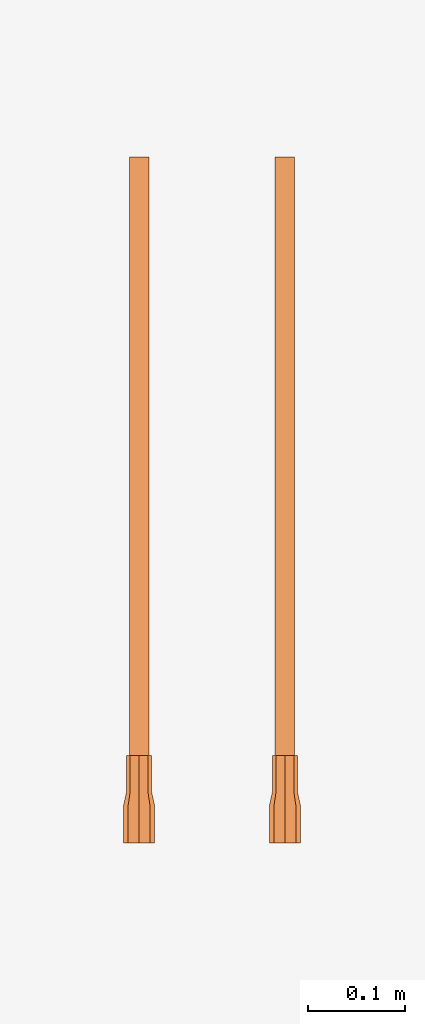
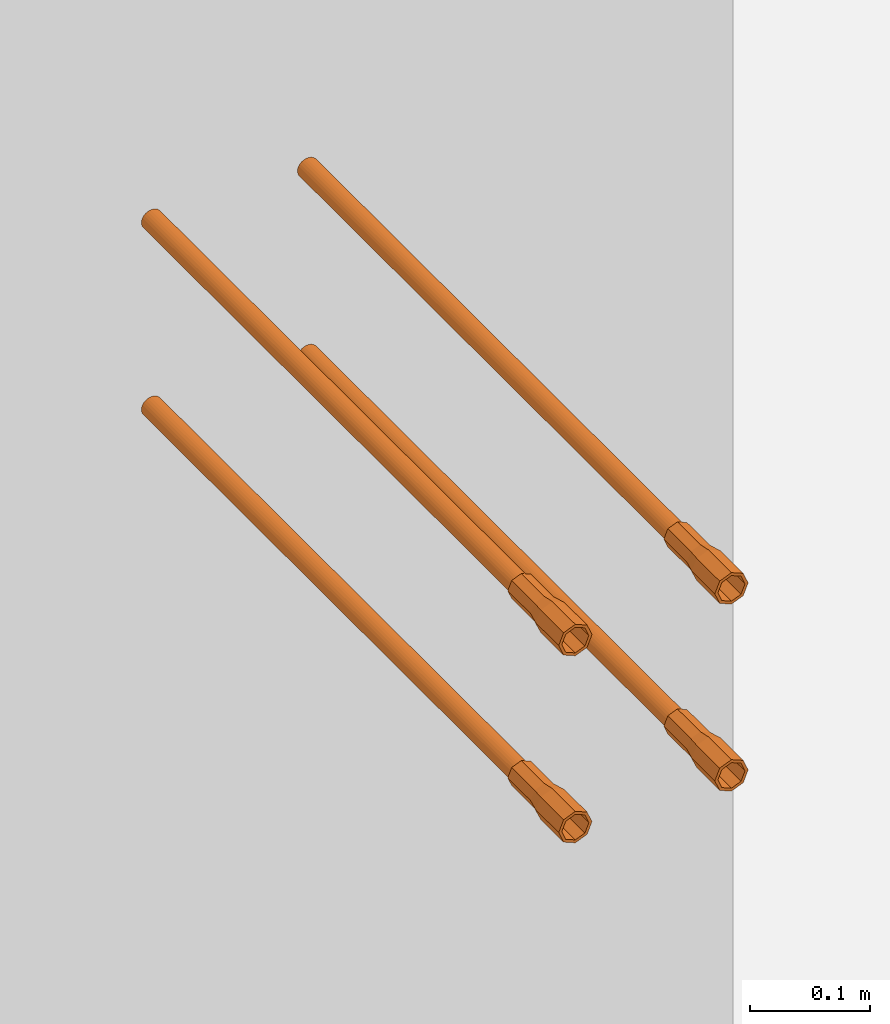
# One storey, part 25 of 26: 4 proxies.
"""IFC2X3 building model written with IfcOpenShell, lengths in millimetres."""

from ifc_helpers import new_model, entity, si_unit, converted_unit, derived_unit, direction, frame, frame_2d, origin, place, context, subcontext, project, spatial, circle, extrude, faceted_brep, source, transform, mapped, type_object, type_shapes, element, save


model = new_model("IFC2X3")

# Units and contexts
model_context = context("Model", 3, precision=0.01, world=origin(), true_north=direction((6.12303176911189e-17, 1.0)))
body_context = subcontext(model_context, "Body", "Model", "MODEL_VIEW")
ifc_project = project(units=[si_unit("LENGTHUNIT", "METRE", prefix="MILLI"), si_unit("AREAUNIT", "SQUARE_METRE"), si_unit("VOLUMEUNIT", "CUBIC_METRE"), converted_unit("PLANEANGLEUNIT", "DEGREE", entity("IfcRatioMeasure", 0.0174532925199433), si_unit("PLANEANGLEUNIT", "RADIAN"), dimensions=[0, 0, 0, 0, 0, 0, 0]), si_unit("MASSUNIT", "GRAM", prefix="KILO"), derived_unit("MASSDENSITYUNIT", [(si_unit("MASSUNIT", "GRAM", prefix="KILO"), 1), (si_unit("LENGTHUNIT", "METRE"), -3)]), si_unit("TIMEUNIT", "SECOND"), si_unit("FREQUENCYUNIT", "HERTZ"), si_unit("THERMODYNAMICTEMPERATUREUNIT", "DEGREE_CELSIUS"), derived_unit("THERMALTRANSMITTANCEUNIT", [(si_unit("MASSUNIT", "GRAM", prefix="KILO"), 1), (si_unit("THERMODYNAMICTEMPERATUREUNIT", "KELVIN"), -1), (si_unit("TIMEUNIT", "SECOND"), -3)]), derived_unit("VOLUMETRICFLOWRATEUNIT", [(si_unit("LENGTHUNIT", "METRE"), 3), (si_unit("TIMEUNIT", "SECOND"), -1)]), si_unit("ELECTRICCURRENTUNIT", "AMPERE"), si_unit("ELECTRICVOLTAGEUNIT", "VOLT"), si_unit("POWERUNIT", "WATT"), si_unit("FORCEUNIT", "NEWTON", prefix="KILO"), si_unit("ILLUMINANCEUNIT", "LUX"), si_unit("LUMINOUSFLUXUNIT", "LUMEN"), si_unit("LUMINOUSINTENSITYUNIT", "CANDELA"), derived_unit("USERDEFINED", [(si_unit("MASSUNIT", "GRAM", prefix="KILO"), -1), (si_unit("LENGTHUNIT", "METRE"), -2), (si_unit("TIMEUNIT", "SECOND"), 3), (si_unit("LUMINOUSFLUXUNIT", "LUMEN"), 1)]), derived_unit("LINEARVELOCITYUNIT", [(si_unit("LENGTHUNIT", "METRE"), 1), (si_unit("TIMEUNIT", "SECOND"), -1)]), si_unit("PRESSUREUNIT", "PASCAL"), derived_unit("USERDEFINED", [(si_unit("LENGTHUNIT", "METRE"), -2), (si_unit("MASSUNIT", "GRAM", prefix="KILO"), 1), (si_unit("TIMEUNIT", "SECOND"), -2)])], contexts=[model_context])

# Site, building, storey
site_placement = place(None, origin())
site = spatial("IfcSite", under=ifc_project, at=site_placement, Name="Default", CompositionType="ELEMENT")
building_placement = place(site_placement, origin())
building = spatial("IfcBuilding", under=site, at=building_placement, Name="niet gebruiken", CompositionType="ELEMENT")
storey_placement = place(building_placement, origin())
storey = spatial("IfcBuildingStorey", under=building, at=storey_placement, Name="00 begane grond", CompositionType="ELEMENT", Elevation=0.0)

# Proxies
building_element_proxy_type_1 = type_object("IfcBuildingElementProxyType", Name="Ø20/M24x705", PredefinedType="NOTDEFINED")
shared_shape_1 = source(origin(), body_context, "Body", "SolidModel", [
    extrude(circle(Radius=10.0, at=frame_2d((0.0, -1.61554457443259e-14), x_axis=(1.0, 0.0))), frame((34.9769027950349, 0.0, -705.0)), (0.0, 0.0, 1.0), 615.0),
    extrude(circle(Radius=10.0, at=frame_2d((0.0, -1.61554457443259e-14), x_axis=(1.0, 0.0))), frame((34.9769027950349, 0.0, -705.0)), (0.0, 0.0, 1.0), 615.0),
    faceted_brep([(29.3200485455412, 13.6568542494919, 0.0), (32.1484756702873, 14.8284271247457, 0.0), (34.9769027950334, 16.0, 0.0), (34.9769027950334, 16.0, -38.0), (32.1484756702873, 14.8284271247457, -38.0), (29.3200485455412, 13.6568542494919, -38.0), (26.4916214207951, 12.4852813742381, -38.0), (23.663194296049, 11.3137084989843, -38.0), (23.663194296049, 11.3137084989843, 0.0), (26.4916214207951, 12.4852813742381, 0.0), (49.805329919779, 2.82842712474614, 0.0), (50.9769027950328, 0.0, 0.0), (50.9769027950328, 0.0, -38.0), (50.0199937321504, 2.31018283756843, -38.0), (49.7680552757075, 2.91841607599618, -38.0), (48.6337570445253, 5.65685424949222, -38.0), (48.5592077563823, 5.83683215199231, -38.0), (47.4621841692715, 8.48528137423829, -38.0), (46.2906112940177, 11.3137084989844, -38.0), (46.2906112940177, 11.3137084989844, 0.0), (47.4621841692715, 8.48528137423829, 0.0), (48.6337570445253, 5.65685424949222, 0.0), (21.3200485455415, 5.65685424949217, 0.0), (22.4916214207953, 8.48528137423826, 0.0), (22.4916214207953, 8.48528137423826, -38.0), (22.2769576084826, 7.96703708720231, -38.0), (21.3200485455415, 5.65685424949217, -38.0), (20.8907209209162, 4.62036567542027, -38.0), (20.1484756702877, 2.82842712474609, -38.0), (18.976902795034, 0.0, -38.0), (18.976902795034, 0.0, 0.0), (20.1484756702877, 2.82842712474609, 0.0), (40.6337570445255, 13.6568542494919, 0.0), (43.4621841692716, 12.4852813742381, 0.0), (43.4621841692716, 12.4852813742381, -38.0), (40.6337570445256, 13.6568542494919, -38.0), (37.8053299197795, 14.8284271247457, -38.0), (37.8053299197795, 14.8284271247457, 0.0), (49.063084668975, -4.62036567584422, 0.0), (47.6768479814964, -7.96703708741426, 0.0), (46.2906112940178, -11.3137084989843, 0.0), (46.2906112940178, -11.3137084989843, -38.0), (47.4621841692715, -8.48528137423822, -38.0), (48.6337570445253, -5.65685424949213, -38.0), (49.8053299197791, -2.82842712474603, -38.0), (29.3200485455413, -13.6568542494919, 0.0), (26.4916214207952, -12.4852813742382, 0.0), (23.6631942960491, -11.3137084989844, 0.0), (23.6631942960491, -11.3137084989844, -38.0), (26.4916214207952, -12.4852813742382, -38.0), (29.3200485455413, -13.6568542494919, -38.0), (32.1484756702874, -14.8284271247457, -38.0), (34.9769027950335, -16.0, -38.0), (34.9769027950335, -16.0, 0.0), (32.1484756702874, -14.8284271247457, 0.0), (37.8053299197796, -14.8284271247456, -38.0), (40.6337570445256, -13.6568542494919, -38.0), (43.4621841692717, -12.4852813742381, -38.0), (43.4621841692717, -12.4852813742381, 0.0), (40.6337570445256, -13.6568542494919, 0.0), (37.8053299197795, -14.8284271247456, 0.0), (22.4916214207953, -8.48528137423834, 0.0), (21.3200485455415, -5.65685424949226, 0.0), (20.1484756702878, -2.82842712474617, 0.0), (19.9338118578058, -2.31018283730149, -38.0), (20.1857498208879, -2.91841488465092, -38.0), (21.3200485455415, -5.65685424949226, -38.0), (22.4916214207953, -8.48528137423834, -38.0), (25.7845146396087, 9.19238815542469, -52.0), (24.8628969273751, 6.96740617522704, -52.0), (23.9412792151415, 4.7424241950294, -52.0), (22.9590910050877, 2.3712120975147, -52.0), (21.976902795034, 0.0, -52.0), (44.1692909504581, 9.19238815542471, -52.0), (47.9769027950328, 0.0, -52.0), (46.994714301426, 2.37121278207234, -52.0), (46.0730968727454, 4.59619407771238, -52.0), (45.1211939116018, 6.89429111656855, -52.0), (34.9769027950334, 13.0, -52.0), (32.6788057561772, 12.0480970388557, -52.0), (30.380708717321, 11.096194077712, -52.0), (28.0826116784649, 10.1442911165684, -52.0), (37.2749998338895, 12.0480970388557, -52.0), (41.8711939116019, 10.1442911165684, -52.0), (39.5730968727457, 11.0961940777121, -52.0), (44.1692909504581, -9.19238815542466, -52.0), (45.0909086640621, -6.96740617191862, -52.0), (45.3722781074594, -6.28812024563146, -52.0), (46.0125263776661, -4.74242418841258, -52.0), (46.5752652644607, -3.38385233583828, -52.0), (46.9947145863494, -2.37121209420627, -52.0), (28.0826116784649, -10.1442911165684, -52.0), (30.3807087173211, -11.0961940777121, -52.0), (32.6788057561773, -12.0480970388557, -52.0), (34.9769027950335, -13.0, -52.0), (25.7845146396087, -9.19238815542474, -52.0), (37.2749998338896, -12.0480970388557, -52.0), (39.5730968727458, -11.096194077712, -52.0), (41.871193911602, -10.1442911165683, -52.0), (22.9288057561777, -2.29809703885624, -52.0), (23.8807087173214, -4.59619407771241, -52.0), (24.8326116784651, -6.89429111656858, -52.0), (32.6788057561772, 12.0480970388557, -90.0), (30.380708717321, 11.096194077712, -90.0), (28.0826116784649, 10.1442911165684, -90.0), (25.7845146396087, 9.19238815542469, -90.0), (34.9769027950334, 13.0, -90.0), (47.9769027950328, 0.0, -90.0), (47.2760840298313, 1.691926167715, -90.0), (46.0730968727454, 4.59619407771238, -90.0), (45.1211939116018, 6.89429111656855, -90.0), (44.1692909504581, 9.19238815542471, -90.0), (23.3785403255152, 3.38385233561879, -90.0), (21.976902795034, 0.0, -90.0), (24.5815274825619, 6.28812024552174, -90.0), (41.8711939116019, 10.1442911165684, -90.0), (39.5730968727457, 11.0961940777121, -90.0), (37.2749998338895, 12.0480970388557, -90.0), (46.0730968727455, -4.5961940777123, -90.0), (47.0249998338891, -2.29809703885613, -90.0), (44.1692909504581, -9.19238815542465, -90.0), (45.1211939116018, -6.89429111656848, -90.0), (25.7845146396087, -9.19238815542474, -90.0), (28.0826116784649, -10.1442911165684, -90.0), (30.3807087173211, -11.0961940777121, -90.0), (32.6788057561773, -12.0480970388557, -90.0), (34.9769027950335, -13.0, -90.0), (37.2749998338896, -12.0480970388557, -90.0), (39.5730968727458, -11.096194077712, -90.0), (41.871193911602, -10.1442911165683, -90.0), (22.6777215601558, -1.6919261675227, -90.0), (23.8807087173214, -4.59619407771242, -90.0), (24.8326116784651, -6.89429111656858, -90.0), (34.9769027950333, 0.0, -90.0), (34.9769027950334, 0.0, -38.0), (47.9769027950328, 0.0, -38.0), (47.2760840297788, 1.69192616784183, -38.0), (46.0730968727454, 4.59619407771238, -38.0), (45.1211939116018, 6.89429111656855, -38.0), (44.1692909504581, 9.19238815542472, -38.0), (41.8711939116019, 10.1442911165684, -38.0), (39.5730968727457, 11.0961940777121, -38.0), (37.2749998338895, 12.0480970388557, -38.0), (34.9769027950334, 13.0, -38.0), (32.6788057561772, 12.0480970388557, -38.0), (30.380708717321, 11.096194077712, -38.0), (28.0826116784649, 10.1442911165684, -38.0), (25.7845146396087, 9.19238815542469, -38.0), (24.5815274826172, 6.28812024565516, -38.0), (23.3785403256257, 3.38385233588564, -38.0), (21.976902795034, 0.0, -38.0), (22.6777215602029, -1.69192616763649, -38.0), (47.0249998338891, -2.29809703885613, -38.0), (46.0730968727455, -4.59619407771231, -38.0), (45.1211939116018, -6.89429111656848, -38.0), (44.1692909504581, -9.19238815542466, -38.0), (41.871193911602, -10.1442911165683, -38.0), (39.5730968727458, -11.096194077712, -38.0), (37.2749998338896, -12.0480970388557, -38.0), (34.9769027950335, -13.0, -38.0), (23.8807087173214, -4.59619407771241, -38.0), (24.8326116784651, -6.89429111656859, -38.0), (25.7845146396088, -9.19238815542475, -38.0), (28.0826116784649, -10.1442911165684, -38.0), (30.3807087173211, -11.0961940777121, -38.0), (32.6788057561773, -12.0480970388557, -38.0), (32.6788057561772, 12.0480970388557, 0.0), (30.380708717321, 11.096194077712, 0.0), (28.0826116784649, 10.1442911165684, 0.0), (25.7845146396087, 9.19238815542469, 0.0), (34.9769027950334, 13.0, 0.0), (47.9769027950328, 0.0, 0.0), (47.0249998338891, 2.29809703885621, 0.0), (46.0730968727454, 4.59619407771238, 0.0), (45.1211939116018, 6.89429111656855, 0.0), (44.1692909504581, 9.19238815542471, 0.0), (24.832611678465, 6.89429111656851, 0.0), (23.8807087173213, 4.59619407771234, 0.0), (22.9288057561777, 2.29809703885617, 0.0), (21.976902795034, 0.0, 0.0), (37.2749998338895, 12.0480970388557, 0.0), (41.8711939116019, 10.1442911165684, 0.0), (39.5730968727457, 11.0961940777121, 0.0), (44.1692909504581, -9.19238815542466, 0.0), (45.3722781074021, -6.28812024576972, 0.0), (46.5752652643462, -3.38385233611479, 0.0), (32.6788057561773, -12.0480970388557, 0.0), (34.9769027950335, -13.0, 0.0), (25.7845146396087, -9.19238815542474, 0.0), (28.0826116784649, -10.1442911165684, 0.0), (30.3807087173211, -11.0961940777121, 0.0), (37.2749998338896, -12.0480970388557, 0.0), (39.5730968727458, -11.096194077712, 0.0), (41.871193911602, -10.1442911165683, 0.0), (22.9288057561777, -2.29809703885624, 0.0), (23.8807087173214, -4.59619407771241, 0.0), (24.8326116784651, -6.89429111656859, 0.0)], [[[0, 1, 2, 3, 4, 5, 6, 7, 8, 9]], [[10, 11, 12, 13, 14, 15, 16, 17, 18, 19, 20, 21]], [[22, 23, 8, 7, 24, 25, 26, 27, 28, 29, 30, 31]], [[32, 33, 19, 18, 34, 35, 36, 3, 2, 37]], [[38, 39, 40, 41, 42, 43, 44, 12, 11]], [[45, 46, 47, 48, 49, 50, 51, 52, 53, 54]], [[53, 52, 55, 56, 57, 41, 40, 58, 59, 60]], [[48, 47, 61, 62, 63, 30, 29, 64, 65, 66, 67]], [[7, 68, 69, 70, 71, 72, 29, 28, 27, 26, 25, 24]], [[73, 18, 17, 16, 15, 14, 13, 12, 74, 75, 76, 77]], [[4, 3, 78, 79, 80, 81, 68, 7, 6, 5]], [[82, 78, 3, 36, 35, 34, 18, 73, 83, 84]], [[41, 85, 86, 87, 88, 89, 90, 74, 12, 44, 43, 42]], [[91, 92, 93, 94, 52, 51, 50, 49, 48, 95]], [[55, 52, 94, 96, 97, 98, 85, 41, 57, 56]], [[99, 100, 101, 95, 48, 67, 66, 65, 64, 29, 72]], [[102, 103, 104, 105, 68, 81, 80, 79, 78, 106]], [[75, 74, 107, 108, 109, 110, 111, 73, 77, 76]], [[112, 113, 72, 71, 70, 69, 68, 105, 114]], [[84, 83, 73, 111, 115, 116, 117, 106, 78, 82]], [[118, 119, 107, 74, 90, 89, 88, 87, 86, 85, 120, 121]], [[92, 91, 95, 122, 123, 124, 125, 126, 94, 93]], [[94, 126, 127, 128, 129, 120, 85, 98, 97, 96]], [[122, 95, 101, 100, 99, 72, 113, 130, 131, 132]], [[133, 111, 110]], [[133, 110, 109]], [[133, 109, 108]], [[133, 108, 107]], [[133, 107, 119]], [[133, 115, 111]], [[133, 116, 115]], [[133, 117, 116]], [[133, 106, 117]], [[133, 102, 106]], [[133, 103, 102]], [[133, 104, 103]], [[133, 105, 104]], [[133, 114, 105]], [[133, 112, 114]], [[133, 113, 112]], [[133, 119, 118]], [[133, 118, 121]], [[133, 121, 120]], [[133, 120, 129]], [[133, 129, 128]], [[133, 128, 127]], [[133, 127, 126]], [[133, 126, 125]], [[133, 130, 113]], [[133, 131, 130]], [[133, 132, 131]], [[133, 122, 132]], [[133, 125, 124]], [[133, 124, 123]], [[133, 123, 122]], [[134, 135, 136]], [[134, 136, 137]], [[134, 137, 138]], [[134, 138, 139]], [[134, 139, 140]], [[134, 140, 141]], [[134, 141, 142]], [[134, 142, 143]], [[134, 143, 144]], [[134, 144, 145]], [[134, 145, 146]], [[134, 146, 147]], [[134, 147, 148]], [[134, 148, 149]], [[134, 149, 150]], [[134, 150, 151]], [[134, 152, 135]], [[134, 153, 152]], [[134, 154, 153]], [[134, 155, 154]], [[134, 156, 155]], [[134, 157, 156]], [[134, 158, 157]], [[134, 159, 158]], [[134, 151, 160]], [[134, 160, 161]], [[134, 161, 162]], [[134, 162, 163]], [[134, 163, 164]], [[134, 164, 165]], [[134, 165, 159]], [[166, 167, 168, 169, 147, 146, 145, 144, 143, 170]], [[136, 135, 171, 172, 173, 174, 175, 139, 138, 137]], [[148, 147, 169, 176, 177, 178, 179, 150, 149]], [[180, 170, 143, 142, 141, 140, 139, 175, 181, 182]], [[153, 154, 155, 183, 184, 185, 171, 135, 152]], [[186, 187, 159, 165, 164, 163, 162, 188, 189, 190]], [[158, 159, 187, 191, 192, 193, 183, 155, 156, 157]], [[161, 160, 151, 150, 179, 194, 195, 196, 188, 162]], [[171, 11, 10]], [[171, 10, 21]], [[171, 21, 20]], [[171, 20, 19]], [[19, 172, 171]], [[171, 38, 11]], [[171, 39, 38]], [[171, 40, 39]], [[40, 171, 185]], [[40, 185, 184]], [[40, 184, 183]], [[183, 58, 40]], [[183, 59, 58]], [[183, 60, 59]], [[183, 53, 60]], [[53, 183, 193]], [[53, 193, 192]], [[53, 192, 191]], [[53, 191, 187]], [[53, 187, 186]], [[53, 186, 190]], [[53, 190, 189]], [[53, 189, 188]], [[188, 54, 53]], [[188, 45, 54]], [[188, 46, 45]], [[188, 47, 46]], [[47, 188, 196]], [[47, 196, 195]], [[47, 195, 194]], [[47, 194, 179]], [[179, 61, 47]], [[179, 62, 61]], [[179, 63, 62]], [[179, 30, 63]], [[179, 31, 30]], [[179, 22, 31]], [[179, 23, 22]], [[179, 8, 23]], [[8, 179, 178]], [[8, 178, 177]], [[8, 177, 176]], [[8, 176, 169]], [[169, 9, 8]], [[169, 0, 9]], [[169, 1, 0]], [[169, 2, 1]], [[2, 169, 168]], [[2, 168, 167]], [[2, 167, 166]], [[2, 166, 170]], [[2, 170, 180]], [[2, 180, 182]], [[2, 182, 181]], [[2, 181, 175]], [[175, 19, 33]], [[19, 175, 174]], [[175, 33, 32]], [[175, 32, 37]], [[175, 37, 2]], [[19, 174, 173]], [[19, 173, 172]]]),
])
type_shapes(building_element_proxy_type_1, [shared_shape_1])
for number, where, z_axis, x_axis in (
    (1, (157790.023097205, 1114.0, 5810.0), (0.0, -1.0, 0.0), (1.0, 0.0, 0.0)),
    (2, (157790.023097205, 1114.0, 5620.0), (0.0, -1.0, 0.0), (1.0, 0.0, 0.0)),
):
    element("IfcBuildingElementProxy", number, at=place(storey_placement, frame(where, z_axis=z_axis, x_axis=x_axis)), inside=storey, type_object=building_element_proxy_type_1, Name="GM_Stekanker_DEMU_4010 GV:Ø20/M24x705", ObjectType="Ø20/M24x705", context=body_context, shape_type="MappedRepresentation", body=[
        mapped(shared_shape_1, transform((0.0, 0.0, 0.0), scale=1.0)),
    ])
building_element_proxy_type_2 = type_object("IfcBuildingElementProxyType", Name="Ø20/M24x705", PredefinedType="NOTDEFINED")
shared_shape_2 = source(origin(), body_context, "Body", "SolidModel", [
    extrude(circle(Radius=10.0, at=frame_2d((0.0, -4.50212443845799e-14), x_axis=(1.0, 0.0))), frame((34.9769027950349, 0.0, -705.0)), (0.0, 0.0, 1.0), 615.0),
    extrude(circle(Radius=10.0, at=frame_2d((0.0, -4.50212443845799e-14), x_axis=(1.0, 0.0))), frame((34.9769027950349, 0.0, -705.0)), (0.0, 0.0, 1.0), 615.0),
    faceted_brep([(26.4916214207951, -12.4852813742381, 0.0), (23.663194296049, -11.3137084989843, 0.0), (23.663194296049, -11.3137084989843, -38.0), (26.4916214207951, -12.4852813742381, -38.0), (29.3200485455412, -13.6568542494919, -38.0), (32.1484756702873, -14.8284271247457, -38.0), (34.9769027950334, -16.0, -38.0), (34.9769027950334, -16.0, 0.0), (32.1484756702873, -14.8284271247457, 0.0), (29.3200485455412, -13.6568542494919, 0.0), (50.0199937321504, -2.31018283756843, -38.0), (50.9769027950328, 0.0, -38.0), (50.9769027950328, 0.0, 0.0), (49.805329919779, -2.82842712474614, 0.0), (48.6337570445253, -5.65685424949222, 0.0), (47.4621841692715, -8.48528137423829, 0.0), (46.2906112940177, -11.3137084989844, 0.0), (46.2906112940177, -11.3137084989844, -38.0), (47.4621841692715, -8.48528137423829, -38.0), (48.5592077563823, -5.83683215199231, -38.0), (48.6337570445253, -5.65685424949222, -38.0), (49.7680552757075, -2.91841607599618, -38.0), (21.3200485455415, -5.65685424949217, 0.0), (20.1484756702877, -2.82842712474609, 0.0), (18.976902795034, 0.0, 0.0), (18.976902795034, 0.0, -38.0), (20.1484756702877, -2.82842712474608, -38.0), (20.8907209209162, -4.62036567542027, -38.0), (21.3200485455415, -5.65685424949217, -38.0), (22.2769576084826, -7.9670370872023, -38.0), (22.4916214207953, -8.48528137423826, -38.0), (22.4916214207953, -8.48528137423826, 0.0), (37.8053299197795, -14.8284271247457, 0.0), (37.8053299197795, -14.8284271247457, -38.0), (40.6337570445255, -13.6568542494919, -38.0), (43.4621841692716, -12.4852813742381, -38.0), (43.4621841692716, -12.4852813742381, 0.0), (40.6337570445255, -13.6568542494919, 0.0), (48.6337570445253, 5.65685424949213, -38.0), (47.4621841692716, 8.48528137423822, -38.0), (46.2906112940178, 11.3137084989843, -38.0), (46.2906112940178, 11.3137084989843, 0.0), (47.6768479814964, 7.96703708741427, 0.0), (49.063084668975, 4.62036567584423, 0.0), (49.8053299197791, 2.82842712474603, -38.0), (32.1484756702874, 14.8284271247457, 0.0), (34.9769027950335, 16.0, 0.0), (34.9769027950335, 16.0, -38.0), (32.1484756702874, 14.8284271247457, -38.0), (29.3200485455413, 13.6568542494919, -38.0), (26.4916214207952, 12.4852813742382, -38.0), (23.6631942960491, 11.3137084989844, -38.0), (23.6631942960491, 11.3137084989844, 0.0), (26.4916214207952, 12.4852813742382, 0.0), (29.3200485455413, 13.6568542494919, 0.0), (37.8053299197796, 14.8284271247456, -38.0), (37.8053299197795, 14.8284271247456, 0.0), (40.6337570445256, 13.6568542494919, 0.0), (43.4621841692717, 12.4852813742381, 0.0), (43.4621841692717, 12.4852813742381, -38.0), (40.6337570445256, 13.6568542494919, -38.0), (22.4916214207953, 8.48528137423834, -38.0), (21.3200485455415, 5.65685424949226, -38.0), (20.1857498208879, 2.91841488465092, -38.0), (19.9338118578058, 2.31018283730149, -38.0), (20.1484756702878, 2.82842712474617, 0.0), (21.3200485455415, 5.65685424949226, 0.0), (22.4916214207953, 8.48528137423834, 0.0), (24.8628969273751, -6.96740617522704, -52.0), (25.7845146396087, -9.19238815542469, -52.0), (21.976902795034, 0.0, -52.0), (22.9590910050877, -2.3712120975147, -52.0), (23.9412792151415, -4.7424241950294, -52.0), (45.1211939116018, -6.89429111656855, -52.0), (46.0730968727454, -4.59619407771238, -52.0), (46.994714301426, -2.37121278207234, -52.0), (47.9769027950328, 0.0, -52.0), (44.1692909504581, -9.19238815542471, -52.0), (34.9769027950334, -13.0, -52.0), (28.0826116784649, -10.1442911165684, -52.0), (30.380708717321, -11.096194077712, -52.0), (32.6788057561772, -12.0480970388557, -52.0), (37.2749998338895, -12.0480970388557, -52.0), (39.5730968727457, -11.0961940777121, -52.0), (41.8711939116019, -10.1442911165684, -52.0), (45.0909086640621, 6.96740617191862, -52.0), (44.1692909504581, 9.19238815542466, -52.0), (46.9947145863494, 2.37121209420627, -52.0), (46.5752652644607, 3.38385233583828, -52.0), (46.0125263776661, 4.74242418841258, -52.0), (45.3722781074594, 6.28812024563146, -52.0), (34.9769027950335, 13.0, -52.0), (32.6788057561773, 12.0480970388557, -52.0), (30.3807087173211, 11.0961940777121, -52.0), (28.0826116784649, 10.1442911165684, -52.0), (25.7845146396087, 9.19238815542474, -52.0), (41.871193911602, 10.1442911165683, -52.0), (39.5730968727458, 11.096194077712, -52.0), (37.2749998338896, 12.0480970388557, -52.0), (22.9288057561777, 2.29809703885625, -52.0), (24.8326116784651, 6.89429111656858, -52.0), (23.8807087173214, 4.59619407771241, -52.0), (25.7845146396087, -9.19238815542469, -90.0), (28.0826116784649, -10.1442911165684, -90.0), (30.380708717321, -11.096194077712, -90.0), (32.6788057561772, -12.0480970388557, -90.0), (34.9769027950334, -13.0, -90.0), (47.2760840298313, -1.691926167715, -90.0), (47.9769027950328, 0.0, -90.0), (44.1692909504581, -9.19238815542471, -90.0), (45.1211939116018, -6.89429111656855, -90.0), (46.0730968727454, -4.59619407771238, -90.0), (24.5815274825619, -6.28812024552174, -90.0), (21.976902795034, 0.0, -90.0), (23.3785403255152, -3.38385233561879, -90.0), (37.2749998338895, -12.0480970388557, -90.0), (39.5730968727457, -11.0961940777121, -90.0), (41.8711939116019, -10.1442911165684, -90.0), (46.0730968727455, 4.5961940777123, -90.0), (45.1211939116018, 6.89429111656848, -90.0), (44.1692909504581, 9.19238815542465, -90.0), (47.0249998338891, 2.29809703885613, -90.0), (34.9769027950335, 13.0, -90.0), (32.6788057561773, 12.0480970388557, -90.0), (30.3807087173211, 11.0961940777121, -90.0), (28.0826116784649, 10.1442911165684, -90.0), (25.7845146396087, 9.19238815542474, -90.0), (37.2749998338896, 12.0480970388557, -90.0), (41.871193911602, 10.1442911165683, -90.0), (39.5730968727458, 11.096194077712, -90.0), (24.8326116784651, 6.89429111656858, -90.0), (23.8807087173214, 4.59619407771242, -90.0), (22.6777215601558, 1.6919261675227, -90.0), (34.9769027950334, 0.0, -90.0), (34.9769027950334, 0.0, -38.0), (44.1692909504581, -9.19238815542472, -38.0), (45.1211939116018, -6.89429111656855, -38.0), (46.0730968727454, -4.59619407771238, -38.0), (47.2760840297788, -1.69192616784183, -38.0), (47.9769027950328, 0.0, -38.0), (47.0249998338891, 2.29809703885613, -38.0), (41.8711939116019, -10.1442911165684, -38.0), (39.5730968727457, -11.0961940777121, -38.0), (37.2749998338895, -12.0480970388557, -38.0), (34.9769027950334, -13.0, -38.0), (32.6788057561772, -12.0480970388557, -38.0), (30.380708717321, -11.096194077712, -38.0), (28.0826116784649, -10.1442911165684, -38.0), (25.7845146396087, -9.19238815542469, -38.0), (24.5815274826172, -6.28812024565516, -38.0), (23.3785403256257, -3.38385233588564, -38.0), (21.976902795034, 0.0, -38.0), (46.0730968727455, 4.59619407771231, -38.0), (45.1211939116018, 6.89429111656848, -38.0), (44.1692909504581, 9.19238815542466, -38.0), (41.871193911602, 10.1442911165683, -38.0), (39.5730968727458, 11.096194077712, -38.0), (37.2749998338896, 12.0480970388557, -38.0), (34.9769027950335, 13.0, -38.0), (32.6788057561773, 12.0480970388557, -38.0), (22.6777215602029, 1.69192616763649, -38.0), (23.8807087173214, 4.59619407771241, -38.0), (24.8326116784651, 6.89429111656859, -38.0), (25.7845146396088, 9.19238815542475, -38.0), (30.3807087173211, 11.0961940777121, -38.0), (28.0826116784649, 10.1442911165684, -38.0), (25.7845146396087, -9.19238815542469, 0.0), (28.0826116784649, -10.1442911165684, 0.0), (30.380708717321, -11.096194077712, 0.0), (32.6788057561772, -12.0480970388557, 0.0), (34.9769027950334, -13.0, 0.0), (47.0249998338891, -2.29809703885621, 0.0), (47.9769027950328, 0.0, 0.0), (44.1692909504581, -9.19238815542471, 0.0), (45.1211939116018, -6.89429111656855, 0.0), (46.0730968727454, -4.59619407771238, 0.0), (21.976902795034, 0.0, 0.0), (22.9288057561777, -2.29809703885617, 0.0), (23.8807087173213, -4.59619407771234, 0.0), (24.832611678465, -6.89429111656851, 0.0), (39.5730968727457, -11.0961940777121, 0.0), (41.8711939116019, -10.1442911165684, 0.0), (37.2749998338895, -12.0480970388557, 0.0), (46.5752652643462, 3.38385233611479, 0.0), (45.3722781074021, 6.28812024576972, 0.0), (44.1692909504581, 9.19238815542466, 0.0), (30.3807087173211, 11.0961940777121, 0.0), (28.0826116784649, 10.1442911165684, 0.0), (25.7845146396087, 9.19238815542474, 0.0), (34.9769027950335, 13.0, 0.0), (32.6788057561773, 12.0480970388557, 0.0), (41.871193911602, 10.1442911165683, 0.0), (39.5730968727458, 11.096194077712, 0.0), (37.2749998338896, 12.0480970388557, 0.0), (24.8326116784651, 6.89429111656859, 0.0), (23.8807087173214, 4.59619407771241, 0.0), (22.9288057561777, 2.29809703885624, 0.0)], [[[0, 1, 2, 3, 4, 5, 6, 7, 8, 9]], [[10, 11, 12, 13, 14, 15, 16, 17, 18, 19, 20, 21]], [[22, 23, 24, 25, 26, 27, 28, 29, 30, 2, 1, 31]], [[32, 7, 6, 33, 34, 35, 17, 16, 36, 37]], [[38, 39, 40, 41, 42, 43, 12, 11, 44]], [[45, 46, 47, 48, 49, 50, 51, 52, 53, 54]], [[55, 47, 46, 56, 57, 58, 41, 40, 59, 60]], [[61, 62, 63, 64, 25, 24, 65, 66, 67, 52, 51]], [[68, 69, 2, 30, 29, 28, 27, 26, 25, 70, 71, 72]], [[73, 74, 75, 76, 11, 10, 21, 20, 19, 18, 17, 77]], [[78, 6, 5, 4, 3, 2, 69, 79, 80, 81]], [[33, 6, 78, 82, 83, 84, 77, 17, 35, 34]], [[85, 86, 40, 39, 38, 44, 11, 76, 87, 88, 89, 90]], [[49, 48, 47, 91, 92, 93, 94, 95, 51, 50]], [[91, 47, 55, 60, 59, 40, 86, 96, 97, 98]], [[99, 70, 25, 64, 63, 62, 61, 51, 95, 100, 101]], [[81, 80, 79, 69, 102, 103, 104, 105, 106, 78]], [[107, 108, 76, 75, 74, 73, 77, 109, 110, 111]], [[112, 102, 69, 68, 72, 71, 70, 113, 114]], [[82, 78, 106, 115, 116, 117, 109, 77, 84, 83]], [[118, 119, 120, 86, 85, 90, 89, 88, 87, 76, 108, 121]], [[92, 91, 122, 123, 124, 125, 126, 95, 94, 93]], [[127, 122, 91, 98, 97, 96, 86, 120, 128, 129]], [[130, 131, 132, 113, 70, 99, 101, 100, 95, 126]], [[133, 108, 107]], [[133, 107, 111]], [[133, 111, 110]], [[133, 110, 109]], [[133, 109, 117]], [[133, 117, 116]], [[133, 116, 115]], [[133, 115, 106]], [[133, 106, 105]], [[133, 105, 104]], [[133, 104, 103]], [[133, 103, 102]], [[133, 102, 112]], [[133, 112, 114]], [[133, 114, 113]], [[133, 113, 132]], [[133, 121, 108]], [[133, 118, 121]], [[133, 119, 118]], [[133, 120, 119]], [[133, 128, 120]], [[133, 129, 128]], [[133, 127, 129]], [[133, 122, 127]], [[133, 132, 131]], [[133, 131, 130]], [[133, 130, 126]], [[133, 126, 125]], [[133, 125, 124]], [[133, 124, 123]], [[133, 123, 122]], [[134, 135, 136]], [[134, 136, 137]], [[134, 137, 138]], [[134, 138, 139]], [[134, 139, 140]], [[134, 141, 135]], [[134, 142, 141]], [[134, 143, 142]], [[134, 144, 143]], [[134, 145, 144]], [[134, 146, 145]], [[134, 147, 146]], [[134, 148, 147]], [[134, 149, 148]], [[134, 150, 149]], [[134, 151, 150]], [[134, 140, 152]], [[134, 152, 153]], [[134, 153, 154]], [[134, 154, 155]], [[134, 155, 156]], [[134, 156, 157]], [[134, 157, 158]], [[134, 158, 159]], [[134, 160, 151]], [[134, 161, 160]], [[134, 162, 161]], [[134, 163, 162]], [[134, 159, 164]], [[134, 164, 165]], [[134, 165, 163]], [[145, 146, 147, 148, 166, 167, 168, 169, 170, 144]], [[171, 172, 139, 138, 137, 136, 135, 173, 174, 175]], [[150, 151, 176, 177, 178, 179, 166, 148, 149]], [[180, 181, 173, 135, 141, 142, 143, 144, 170, 182]], [[183, 184, 185, 154, 153, 152, 140, 139, 172]], [[186, 187, 188, 163, 165, 164, 159, 158, 189, 190]], [[189, 158, 157, 156, 155, 154, 185, 191, 192, 193]], [[163, 188, 194, 195, 196, 176, 151, 160, 161, 162]], [[172, 16, 15]], [[16, 172, 171]], [[172, 15, 14]], [[172, 14, 13]], [[172, 13, 12]], [[172, 12, 43]], [[172, 43, 42]], [[172, 42, 41]], [[41, 183, 172]], [[16, 171, 175]], [[16, 175, 174]], [[16, 174, 173]], [[173, 36, 16]], [[173, 37, 36]], [[173, 32, 37]], [[173, 7, 32]], [[7, 173, 181]], [[7, 181, 180]], [[7, 180, 182]], [[7, 182, 170]], [[7, 170, 169]], [[7, 169, 168]], [[7, 168, 167]], [[7, 167, 166]], [[166, 8, 7]], [[166, 9, 8]], [[166, 0, 9]], [[166, 1, 0]], [[1, 166, 179]], [[1, 179, 178]], [[1, 178, 177]], [[1, 177, 176]], [[176, 31, 1]], [[176, 22, 31]], [[176, 23, 22]], [[176, 24, 23]], [[176, 65, 24]], [[176, 66, 65]], [[176, 67, 66]], [[176, 52, 67]], [[52, 176, 196]], [[52, 196, 195]], [[52, 195, 194]], [[52, 194, 188]], [[188, 53, 52]], [[188, 54, 53]], [[188, 45, 54]], [[188, 46, 45]], [[46, 188, 187]], [[46, 187, 186]], [[46, 186, 190]], [[46, 190, 189]], [[46, 189, 193]], [[46, 193, 192]], [[46, 192, 191]], [[46, 191, 185]], [[185, 41, 58]], [[41, 185, 184]], [[185, 58, 57]], [[185, 57, 56]], [[185, 56, 46]], [[41, 184, 183]]]),
])
type_shapes(building_element_proxy_type_2, [shared_shape_2])
for number, where, z_axis, x_axis in (
    (3, (157709.976902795, 1114.0, 5810.0), (0.0, -1.0, 0.0), (-1.0, 0.0, 0.0)),
    (4, (157709.976902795, 1114.0, 5620.0), (0.0, -1.0, 0.0), (-1.0, 0.0, 0.0)),
):
    element("IfcBuildingElementProxy", number, at=place(storey_placement, frame(where, z_axis=z_axis, x_axis=x_axis)), inside=storey, type_object=building_element_proxy_type_2, Name="GM_Stekanker_DEMU_4010 GV:Ø20/M24x705", ObjectType="Ø20/M24x705", context=body_context, shape_type="MappedRepresentation", body=[
        mapped(shared_shape_2, transform((0.0, 0.0, 0.0), scale=1.0)),
    ])

save(model, "model.ifc")
